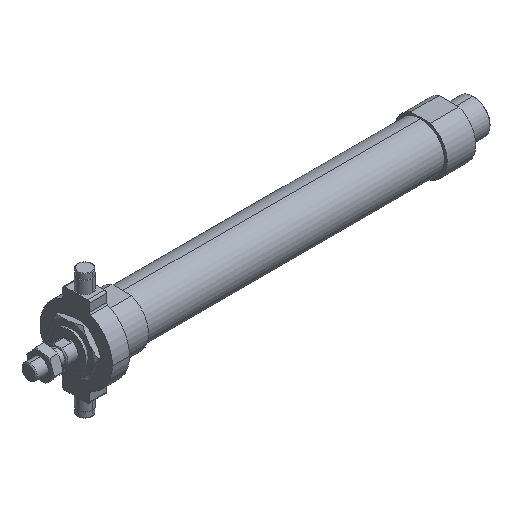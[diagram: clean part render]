
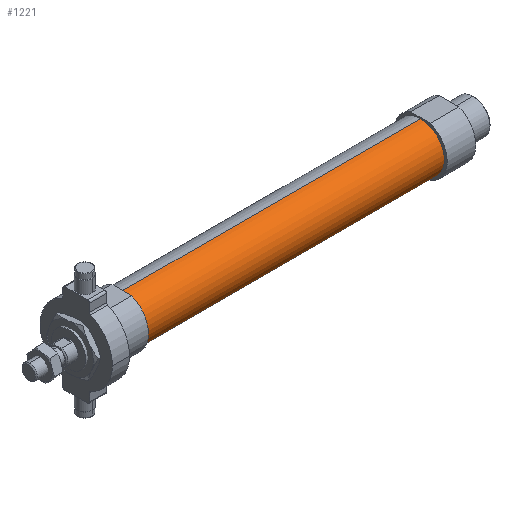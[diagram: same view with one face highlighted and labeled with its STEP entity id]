
A CAD part, isometric view. The second image highlights one B-rep face of the part: STEP entity #1221.
In plain terms, the highlighted cylindrical face has radius 12.5 mm (diameter 25 mm), a partial arc.
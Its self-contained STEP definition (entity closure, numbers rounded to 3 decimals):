
#63 = LINE ( 'NONE', #3923, #541 ) ;
#148 = CARTESIAN_POINT ( 'NONE',  ( 49., 0., -12.5 ) ) ;
#181 = ORIENTED_EDGE ( 'NONE', *, *, #2934, .T. ) ;
#333 = EDGE_CURVE ( 'NONE', #1095, #838, #63, .T. ) ;
#487 = CIRCLE ( 'NONE', #628, 12.5 ) ;
#541 = VECTOR ( 'NONE', #2621, 1000. ) ;
#549 = ORIENTED_EDGE ( 'NONE', *, *, #3539, .F. ) ;
#589 = AXIS2_PLACEMENT_3D ( 'NONE', #2171, #3681, #2091 ) ;
#628 = AXIS2_PLACEMENT_3D ( 'NONE', #2866, #1462, #4032 ) ;
#838 = VERTEX_POINT ( 'NONE', #3114 ) ;
#884 = ORIENTED_EDGE ( 'NONE', *, *, #4194, .F. ) ;
#1071 = LINE ( 'NONE', #3224, #2807 ) ;
#1095 = VERTEX_POINT ( 'NONE', #3009 ) ;
#1195 = CYLINDRICAL_SURFACE ( 'NONE', #2278, 12.5 ) ;
#1221 = ADVANCED_FACE ( 'NONE', ( #4084 ), #1195, .T. ) ;
#1462 = DIRECTION ( 'NONE',  ( -1., 0., 0. ) ) ;
#1589 = CIRCLE ( 'NONE', #589, 12.5 ) ;
#1736 = DIRECTION ( 'NONE',  ( -1., 0., 0. ) ) ;
#2091 = DIRECTION ( 'NONE',  ( 0., 0., 1. ) ) ;
#2100 = ORIENTED_EDGE ( 'NONE', *, *, #333, .T. ) ;
#2171 = CARTESIAN_POINT ( 'NONE',  ( 206., 0., 0. ) ) ;
#2278 = AXIS2_PLACEMENT_3D ( 'NONE', #2781, #3499, #2476 ) ;
#2381 = CARTESIAN_POINT ( 'NONE',  ( 206., 0., -12.5 ) ) ;
#2476 = DIRECTION ( 'NONE',  ( 0., 0., 1. ) ) ;
#2621 = DIRECTION ( 'NONE',  ( -1., 0., 0. ) ) ;
#2774 = EDGE_LOOP ( 'NONE', ( #549, #181, #2100, #884 ) ) ;
#2781 = CARTESIAN_POINT ( 'NONE',  ( -6.469, 0., 0. ) ) ;
#2807 = VECTOR ( 'NONE', #1736, 1000. ) ;
#2866 = CARTESIAN_POINT ( 'NONE',  ( 49., 0., 0. ) ) ;
#2934 = EDGE_CURVE ( 'NONE', #4434, #1095, #1589, .T. ) ;
#3009 = CARTESIAN_POINT ( 'NONE',  ( 206., 0., 12.5 ) ) ;
#3114 = CARTESIAN_POINT ( 'NONE',  ( 49., 0., 12.5 ) ) ;
#3224 = CARTESIAN_POINT ( 'NONE',  ( -6.469, 0., -12.5 ) ) ;
#3499 = DIRECTION ( 'NONE',  ( -1., 0., 0. ) ) ;
#3539 = EDGE_CURVE ( 'NONE', #4434, #3906, #1071, .T. ) ;
#3681 = DIRECTION ( 'NONE',  ( -1., 0., 0. ) ) ;
#3906 = VERTEX_POINT ( 'NONE', #148 ) ;
#3923 = CARTESIAN_POINT ( 'NONE',  ( -6.469, 0., 12.5 ) ) ;
#4032 = DIRECTION ( 'NONE',  ( 0., 0., 1. ) ) ;
#4084 = FACE_OUTER_BOUND ( 'NONE', #2774, .T. ) ;
#4194 = EDGE_CURVE ( 'NONE', #3906, #838, #487, .T. ) ;
#4434 = VERTEX_POINT ( 'NONE', #2381 ) ;
